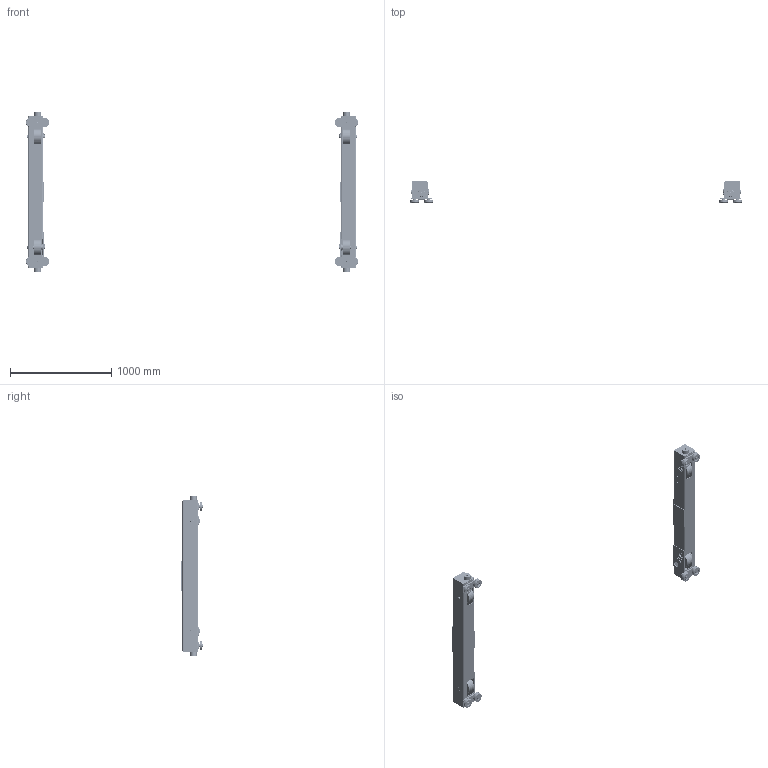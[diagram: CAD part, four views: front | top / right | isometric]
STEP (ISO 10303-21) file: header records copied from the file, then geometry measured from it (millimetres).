
FILE_DESCRIPTION (( 'STEP AP214' ), '1' );
FILE_NAME ('TP-3-0335.STEP', '2026-08-06T17:53:58', ( '' ), ( '' ), 'SwSTEP 2.0', 'SolidWorks 2026', '' );
FILE_SCHEMA (( 'AUTOMOTIVE_DESIGN' ));
Length unit declared in the file: inch
Products named in the file (37): 9047252_9047252; 6240807; 6240817X_6240817A; N6QL210207; N6Q07201102; 9000707; 6240813; 6240825; 6240820; T3P116030; 9012514_9012514; 6240808; T600-600-004_58.125; 6232404; 9012711_9012711; 9093327_9093327; TP-3-0335; 6240809; 9000605; 6240810; 9093101_9093101; 6240811; 6240815; 6240824; 62401_0245-0335 - 25# RAIL; N6QO310E9108_N6QO3101108 DOMESTIC; 62398_6239801; 6240805X_6240805A; 62400_0245-0335 - 25# RAIL; 9047125_B27.7M - 3AM1-23; N6Q0720E9102; 6232305; 62399_6239901; N6QO3101108_N6QO3101108
Assembly tree (107 placements, depth 4):
  TP-3-0335
    62400_0245-0335 - 25# RAIL
      62398_6239801
        T600-600-004_58.125
        6240824
        6240820
      6240811  x2
      6240813
      6240810
      6240808
      6240809
      T3P116030
      6240817X_6240817A  x2
        6240805X_6240805A
        6232305
    62401_0245-0335 - 25# RAIL
      62399_6239901
        T600-600-004_58.125
        6240824
        6240820
      6240811  x2
      6240813
      T3P116030
      6240809
      6240808
      6240810
      6240817X_6240817A  x2
        6240805X_6240805A
        6232305
    N6QO3101108_N6QO3101108  x8
      N6QO310E9108_N6QO3101108 DOMESTIC
      9047252_9047252
      9000605
    6232404  x8
    9047125_B27.7M - 3AM1-23  x8
    N6QL210207  x4
    9012514_9012514  x4
    9012711_9012711  x12
    9093101_9093101  x4
    6240815  x4
    6240825  x4
    9093327_9093327  x8
    N6Q07201102  x4
      N6Q0720E9102
      9000707
    6240807  x2
Bounding box: 3275.6 x 207.96 x 1573.42 mm (x, y, z)
Volume: 20207460.2 mm3; surface area: 5375851.3 mm2
Topology: 110 solids, 174 shells, 9716 faces, 25900 edges, 17244 vertices
Faces by surface type: plane 6728, cylinder 1596, bspline 952, cone 336, torus 104
Entity records: 63039 total; most frequent: CARTESIAN_POINT 19054, ORIENTED_EDGE 8690, DIRECTION 7683, EDGE_CURVE 4349, VERTEX_POINT 2891, AXIS2_PLACEMENT_3D 2746, VECTOR 2191, LINE 2191
